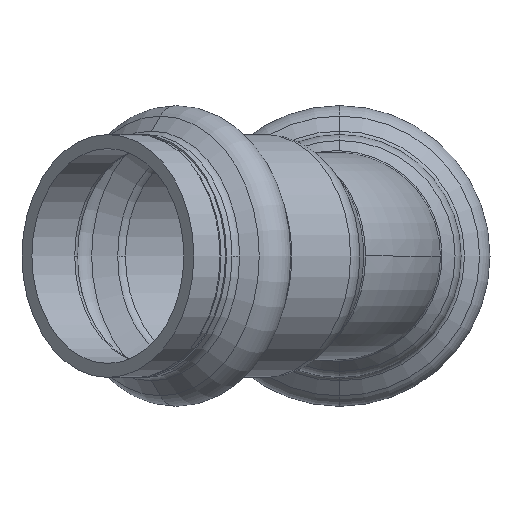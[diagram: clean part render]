
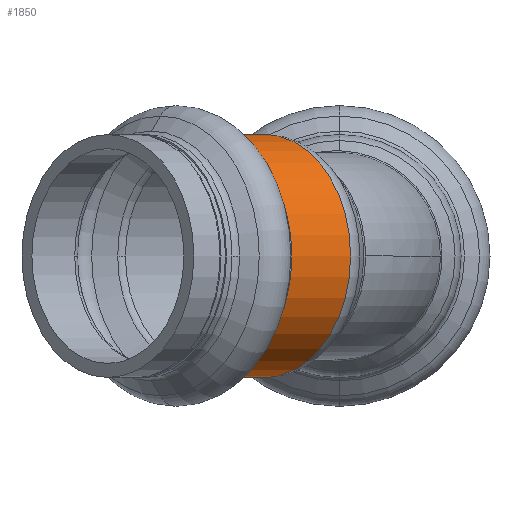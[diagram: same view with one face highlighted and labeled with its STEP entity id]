
A CAD part, left-side view. The second image highlights one B-rep face of the part: STEP entity #1850.
In plain terms, the highlighted cylindrical face has radius 12.6 mm (diameter 25.2 mm), a partial arc.
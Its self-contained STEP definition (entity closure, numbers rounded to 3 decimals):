
#221 = ORIENTED_EDGE ( 'NONE', *, *, #3546, .F. ) ;
#411 = VERTEX_POINT ( 'NONE', #2566 ) ;
#454 = AXIS2_PLACEMENT_3D ( 'NONE', #3133, #3127, #3114 ) ;
#531 = ORIENTED_EDGE ( 'NONE', *, *, #2903, .T. ) ;
#952 = VERTEX_POINT ( 'NONE', #2489 ) ;
#1023 = VECTOR ( 'NONE', #2932, 1000. ) ;
#1057 = VERTEX_POINT ( 'NONE', #2649 ) ;
#1101 = ORIENTED_EDGE ( 'NONE', *, *, #2936, .F. ) ;
#1441 = VERTEX_POINT ( 'NONE', #3671 ) ;
#1583 = FACE_OUTER_BOUND ( 'NONE', #3012, .T. ) ;
#1589 = ORIENTED_EDGE ( 'NONE', *, *, #3765, .T. ) ;
#1623 = ORIENTED_EDGE ( 'NONE', *, *, #2818, .T. ) ;
#1721 = AXIS2_PLACEMENT_3D ( 'NONE', #2007, #3637, #3591 ) ;
#1792 = VERTEX_POINT ( 'NONE', #2036 ) ;
#1850 = ADVANCED_FACE ( 'NONE', ( #1583 ), #2149, .T. ) ;
#1887 = LINE ( 'NONE', #2992, #1023 ) ;
#1993 = CIRCLE ( 'NONE', #454, 12.6 ) ;
#2007 = CARTESIAN_POINT ( 'NONE',  ( -25.175, 25.175, 0. ) ) ;
#2036 = CARTESIAN_POINT ( 'NONE',  ( -13.863, 13.863, -12.6 ) ) ;
#2123 = DIRECTION ( 'NONE',  ( 0.707, 0.707, 0. ) ) ;
#2136 = DIRECTION ( 'NONE',  ( 0.707, -0.707, 0. ) ) ;
#2149 = CYLINDRICAL_SURFACE ( 'NONE', #1721, 12.6 ) ;
#2429 = CARTESIAN_POINT ( 'NONE',  ( -13.863, 13.863, 0. ) ) ;
#2489 = CARTESIAN_POINT ( 'NONE',  ( -22.773, 4.954, 0. ) ) ;
#2566 = CARTESIAN_POINT ( 'NONE',  ( -7.778, 7.778, -12.6 ) ) ;
#2649 = CARTESIAN_POINT ( 'NONE',  ( -7.778, 7.778, 12.6 ) ) ;
#2711 = AXIS2_PLACEMENT_3D ( 'NONE', #2429, #2136, #2123 ) ;
#2818 = EDGE_CURVE ( 'NONE', #1057, #1441, #3039, .T. ) ;
#2903 = EDGE_CURVE ( 'NONE', #1441, #952, #1993, .T. ) ;
#2932 = DIRECTION ( 'NONE',  ( -0.707, 0.707, 0. ) ) ;
#2936 = EDGE_CURVE ( 'NONE', #411, #1792, #1887, .T. ) ;
#2943 = CIRCLE ( 'NONE', #2711, 12.6 ) ;
#2992 = CARTESIAN_POINT ( 'NONE',  ( -25.175, 25.175, -12.6 ) ) ;
#3012 = EDGE_LOOP ( 'NONE', ( #221, #1623, #531, #1589, #1101 ) ) ;
#3039 = LINE ( 'NONE', #3587, #3643 ) ;
#3114 = DIRECTION ( 'NONE',  ( 0.707, 0.707, 0. ) ) ;
#3127 = DIRECTION ( 'NONE',  ( 0.707, -0.707, 0. ) ) ;
#3133 = CARTESIAN_POINT ( 'NONE',  ( -13.863, 13.863, 0. ) ) ;
#3151 = AXIS2_PLACEMENT_3D ( 'NONE', #3412, #3399, #3226 ) ;
#3226 = DIRECTION ( 'NONE',  ( 0., 0., -1. ) ) ;
#3399 = DIRECTION ( 'NONE',  ( 0.707, -0.707, 0. ) ) ;
#3412 = CARTESIAN_POINT ( 'NONE',  ( -7.778, 7.778, 0. ) ) ;
#3502 = CIRCLE ( 'NONE', #3151, 12.6 ) ;
#3546 = EDGE_CURVE ( 'NONE', #1057, #411, #3502, .T. ) ;
#3552 = DIRECTION ( 'NONE',  ( -0.707, 0.707, 0. ) ) ;
#3587 = CARTESIAN_POINT ( 'NONE',  ( -25.175, 25.175, 12.6 ) ) ;
#3591 = DIRECTION ( 'NONE',  ( 0., 0., -1. ) ) ;
#3637 = DIRECTION ( 'NONE',  ( -0.707, 0.707, 0. ) ) ;
#3643 = VECTOR ( 'NONE', #3552, 1000. ) ;
#3671 = CARTESIAN_POINT ( 'NONE',  ( -13.863, 13.863, 12.6 ) ) ;
#3765 = EDGE_CURVE ( 'NONE', #952, #1792, #2943, .T. ) ;
